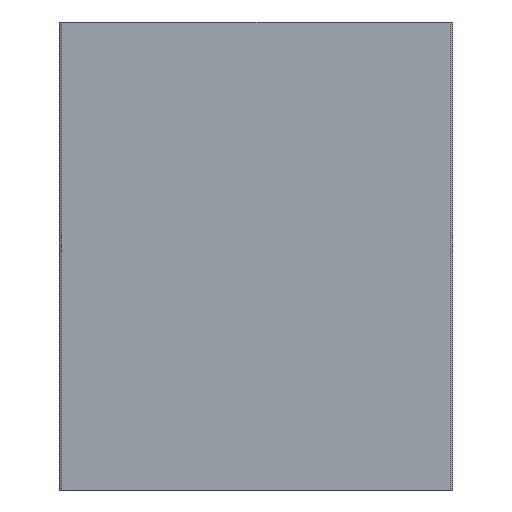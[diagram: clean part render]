
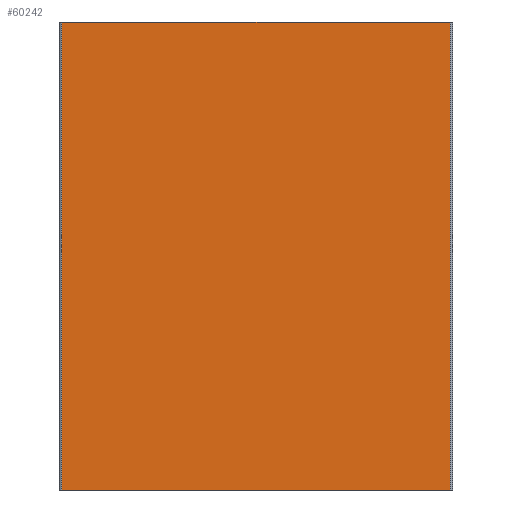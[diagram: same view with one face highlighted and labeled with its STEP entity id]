
A CAD part, left-side view. The second image highlights one B-rep face of the part: STEP entity #60242.
In plain terms, the highlighted planar face has unit normal (-1, 0, 0).
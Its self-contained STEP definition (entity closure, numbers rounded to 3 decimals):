
#3648 = VERTEX_POINT ( 'NONE', #38831 ) ;
#7151 = CARTESIAN_POINT ( 'NONE',  ( 31.713, 226.511, 100. ) ) ;
#7668 = DIRECTION ( 'NONE',  ( 0., 0., -1. ) ) ;
#8967 = ORIENTED_EDGE ( 'NONE', *, *, #56159, .T. ) ;
#10282 = VECTOR ( 'NONE', #16788, 1000. ) ;
#13541 = DIRECTION ( 'NONE',  ( 0., -1., 0. ) ) ;
#16788 = DIRECTION ( 'NONE',  ( 0., 0., -1. ) ) ;
#25344 = ORIENTED_EDGE ( 'NONE', *, *, #48332, .F. ) ;
#26441 = LINE ( 'NONE', #53211, #10282 ) ;
#27343 = CARTESIAN_POINT ( 'NONE',  ( 31.713, 143.511, 100. ) ) ;
#29989 = CARTESIAN_POINT ( 'NONE',  ( 31.713, 143.511, 100. ) ) ;
#31881 = EDGE_CURVE ( 'NONE', #67209, #56308, #26441, .T. ) ;
#33872 = CARTESIAN_POINT ( 'NONE',  ( 31.713, 226.511, 100. ) ) ;
#35040 = LINE ( 'NONE', #49971, #49294 ) ;
#38831 = CARTESIAN_POINT ( 'NONE',  ( 31.713, 143.511, 0. ) ) ;
#43198 = VECTOR ( 'NONE', #66224, 1000. ) ;
#44095 = DIRECTION ( 'NONE',  ( 1., 0., 0. ) ) ;
#48332 = EDGE_CURVE ( 'NONE', #67209, #70334, #35040, .T. ) ;
#49294 = VECTOR ( 'NONE', #13541, 1000. ) ;
#49971 = CARTESIAN_POINT ( 'NONE',  ( 31.713, 226.511, 100. ) ) ;
#51125 = EDGE_CURVE ( 'NONE', #70334, #3648, #60310, .T. ) ;
#52114 = ORIENTED_EDGE ( 'NONE', *, *, #31881, .T. ) ;
#53211 = CARTESIAN_POINT ( 'NONE',  ( 31.713, 226.511, 100. ) ) ;
#56159 = EDGE_CURVE ( 'NONE', #56308, #3648, #75536, .T. ) ;
#56308 = VERTEX_POINT ( 'NONE', #61696 ) ;
#60123 = CARTESIAN_POINT ( 'NONE',  ( 31.713, 226.511, 0. ) ) ;
#60242 = ADVANCED_FACE ( 'NONE', ( #63499 ), #74402, .F. ) ;
#60310 = LINE ( 'NONE', #27343, #76435 ) ;
#61696 = CARTESIAN_POINT ( 'NONE',  ( 31.713, 226.511, 0. ) ) ;
#63499 = FACE_OUTER_BOUND ( 'NONE', #69239, .T. ) ;
#63788 = DIRECTION ( 'NONE',  ( 0., 0., -1. ) ) ;
#66224 = DIRECTION ( 'NONE',  ( 0., -1., 0. ) ) ;
#67209 = VERTEX_POINT ( 'NONE', #33872 ) ;
#69239 = EDGE_LOOP ( 'NONE', ( #8967, #71601, #25344, #52114 ) ) ;
#70334 = VERTEX_POINT ( 'NONE', #29989 ) ;
#71601 = ORIENTED_EDGE ( 'NONE', *, *, #51125, .F. ) ;
#74402 = PLANE ( 'NONE',  #78084 ) ;
#75536 = LINE ( 'NONE', #60123, #43198 ) ;
#76435 = VECTOR ( 'NONE', #63788, 1000. ) ;
#78084 = AXIS2_PLACEMENT_3D ( 'NONE', #7151, #44095, #7668 ) ;
